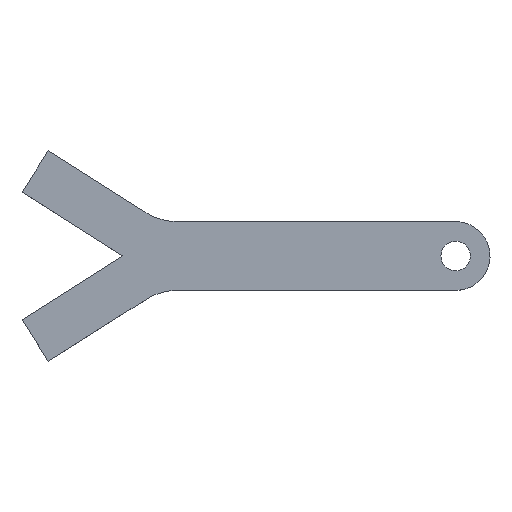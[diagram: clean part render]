
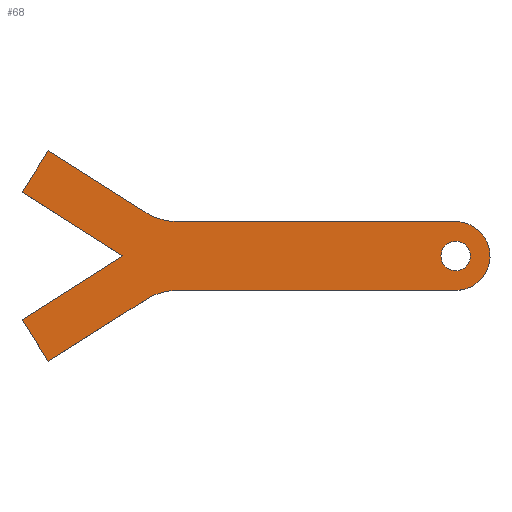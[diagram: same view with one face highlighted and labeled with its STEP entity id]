
A CAD part, top view. The second image highlights one B-rep face of the part: STEP entity #68.
In plain terms, the highlighted planar face has unit normal (0, 0, 1).
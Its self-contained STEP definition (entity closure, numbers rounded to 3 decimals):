
#68=ADVANCED_FACE('',(#106,#107),#108,.F.);
#106=FACE_BOUND('',#145,.T.);
#107=FACE_OUTER_BOUND('',#146,.T.);
#108=PLANE('',#147);
#145=EDGE_LOOP('',(#280,#281));
#146=EDGE_LOOP('',(#282,#283,#284,#285,#286,#287,#288,#289,#290,#291,#292,#293,#294,#295));
#147=AXIS2_PLACEMENT_3D('',#296,#297,#298);
#280=ORIENTED_EDGE('',*,*,#313,.T.);
#281=ORIENTED_EDGE('',*,*,#317,.T.);
#282=ORIENTED_EDGE('',*,*,#311,.F.);
#283=ORIENTED_EDGE('',*,*,#333,.F.);
#284=ORIENTED_EDGE('',*,*,#326,.F.);
#285=ORIENTED_EDGE('',*,*,#303,.F.);
#286=ORIENTED_EDGE('',*,*,#331,.F.);
#287=ORIENTED_EDGE('',*,*,#346,.F.);
#288=ORIENTED_EDGE('',*,*,#343,.F.);
#289=ORIENTED_EDGE('',*,*,#340,.F.);
#290=ORIENTED_EDGE('',*,*,#337,.F.);
#291=ORIENTED_EDGE('',*,*,#334,.F.);
#292=ORIENTED_EDGE('',*,*,#321,.F.);
#293=ORIENTED_EDGE('',*,*,#307,.F.);
#294=ORIENTED_EDGE('',*,*,#324,.F.);
#295=ORIENTED_EDGE('',*,*,#318,.F.);
#296=CARTESIAN_POINT('',(-33.54,0.041,-5.));
#297=DIRECTION('',(0.0,0.,-1.0));
#298=DIRECTION('',(1.0,0.0,0.0));
#303=EDGE_CURVE('',#353,#349,#355,.T.);
#307=EDGE_CURVE('',#361,#357,#363,.T.);
#311=EDGE_CURVE('',#369,#365,#371,.T.);
#313=EDGE_CURVE('',#375,#372,#376,.T.);
#317=EDGE_CURVE('',#372,#375,#381,.T.);
#318=EDGE_CURVE('',#365,#382,#383,.T.);
#321=EDGE_CURVE('',#357,#387,#388,.T.);
#324=EDGE_CURVE('',#382,#361,#392,.T.);
#326=EDGE_CURVE('',#349,#394,#395,.T.);
#331=EDGE_CURVE('',#401,#353,#403,.T.);
#333=EDGE_CURVE('',#394,#369,#405,.T.);
#334=EDGE_CURVE('',#387,#406,#407,.T.);
#337=EDGE_CURVE('',#406,#411,#412,.T.);
#340=EDGE_CURVE('',#411,#416,#417,.T.);
#343=EDGE_CURVE('',#416,#421,#422,.T.);
#346=EDGE_CURVE('',#421,#401,#426,.T.);
#349=VERTEX_POINT('',#429);
#353=VERTEX_POINT('',#434);
#355=CIRCLE('',#437,6.0);
#357=VERTEX_POINT('',#439);
#361=VERTEX_POINT('',#444);
#363=CIRCLE('',#447,6.0);
#365=VERTEX_POINT('',#449);
#369=VERTEX_POINT('',#454);
#371=CIRCLE('',#457,3.5);
#372=VERTEX_POINT('',#458);
#375=VERTEX_POINT('',#462);
#376=CIRCLE('',#463,1.5);
#381=CIRCLE('',#469,1.5);
#382=VERTEX_POINT('',#470);
#383=CIRCLE('',#471,3.5);
#387=VERTEX_POINT('',#476);
#388=CIRCLE('',#477,6.0);
#392=LINE('',#482,#483);
#394=VERTEX_POINT('',#486);
#395=CIRCLE('',#487,6.0);
#401=VERTEX_POINT('',#495);
#403=LINE('',#498,#499);
#405=LINE('',#502,#503);
#406=VERTEX_POINT('',#504);
#407=LINE('',#505,#506);
#411=VERTEX_POINT('',#512);
#412=LINE('',#513,#514);
#416=VERTEX_POINT('',#520);
#417=LINE('',#521,#522);
#421=VERTEX_POINT('',#528);
#422=LINE('',#529,#530);
#426=LINE('',#536,#537);
#429=CARTESIAN_POINT('',(-33.494,3.737,-5.));
#434=CARTESIAN_POINT('',(-35.031,4.427,-5.));
#437=AXIS2_PLACEMENT_3D('',#545,#546,#547);
#439=CARTESIAN_POINT('',(-33.472,-3.736,-5.));
#444=CARTESIAN_POINT('',(-31.807,-3.5,-5.));
#447=AXIS2_PLACEMENT_3D('',#553,#554,#555);
#449=CARTESIAN_POINT('',(-1.023,2.475,-5.));
#454=CARTESIAN_POINT('',(-3.498,3.5,-5.));
#457=AXIS2_PLACEMENT_3D('',#561,#562,#563);
#458=CARTESIAN_POINT('',(-1.998,0.,-5.));
#462=CARTESIAN_POINT('',(-4.998,0.,-5.));
#463=AXIS2_PLACEMENT_3D('',#565,#566,#567);
#469=AXIS2_PLACEMENT_3D('',#575,#576,#577);
#470=CARTESIAN_POINT('',(-3.498,-3.5,-5.));
#471=AXIS2_PLACEMENT_3D('',#578,#579,#580);
#476=CARTESIAN_POINT('',(-35.007,-4.425,-5.));
#477=AXIS2_PLACEMENT_3D('',#585,#586,#587);
#482=CARTESIAN_POINT('',(0.002,-3.5,-5.));
#483=VECTOR('',#592,1.0);
#486=CARTESIAN_POINT('',(-31.826,3.5,-5.));
#487=AXIS2_PLACEMENT_3D('',#594,#595,#596);
#495=CARTESIAN_POINT('',(-44.967,10.705,-5.));
#498=CARTESIAN_POINT('',(-44.967,10.705,-5.));
#499=VECTOR('',#603,1.0);
#502=CARTESIAN_POINT('',(-33.563,3.5,-5.));
#503=VECTOR('',#605,1.0);
#504=CARTESIAN_POINT('',(-44.967,-10.705,-5.));
#505=CARTESIAN_POINT('',(-33.54,-3.5,-5.));
#506=VECTOR('',#606,1.0);
#512=CARTESIAN_POINT('',(-47.642,-6.489,-5.));
#513=CARTESIAN_POINT('',(-44.967,-10.705,-5.));
#514=VECTOR('',#609,1.0);
#520=CARTESIAN_POINT('',(-37.415,0.,-5.));
#521=CARTESIAN_POINT('',(-47.642,-6.489,-5.));
#522=VECTOR('',#612,1.0);
#528=CARTESIAN_POINT('',(-47.642,6.489,-5.));
#529=CARTESIAN_POINT('',(-37.415,0.,-5.));
#530=VECTOR('',#615,1.0);
#536=CARTESIAN_POINT('',(-47.642,6.489,-5.));
#537=VECTOR('',#618,1.0);
#545=CARTESIAN_POINT('',(-31.826,9.5,-5.));
#546=DIRECTION('',(0.,0.,1.0));
#547=DIRECTION('',(-0.278,-0.961,0.));
#553=CARTESIAN_POINT('',(-31.807,-9.5,-5.));
#554=DIRECTION('',(0.,0.,1.0));
#555=DIRECTION('',(-0.278,0.961,0.));
#561=CARTESIAN_POINT('',(-3.498,0.,-5.));
#562=DIRECTION('',(0.0,0.,-1.0));
#563=DIRECTION('',(0.707,-0.707,0.));
#565=CARTESIAN_POINT('',(-3.498,0.,-5.));
#566=DIRECTION('',(0.0,0.,-1.0));
#567=DIRECTION('',(1.0,0.0,0.0));
#575=CARTESIAN_POINT('',(-3.498,0.,-5.));
#576=DIRECTION('',(0.0,0.,-1.0));
#577=DIRECTION('',(1.0,0.0,0.0));
#578=CARTESIAN_POINT('',(-3.498,0.,-5.));
#579=DIRECTION('',(0.0,0.,-1.0));
#580=DIRECTION('',(0.707,-0.707,0.));
#585=CARTESIAN_POINT('',(-31.807,-9.5,-5.));
#586=DIRECTION('',(0.,0.,1.0));
#587=DIRECTION('',(-0.278,0.961,0.));
#592=DIRECTION('',(-1.0,0.,0.));
#594=CARTESIAN_POINT('',(-31.826,9.5,-5.));
#595=DIRECTION('',(0.,0.,1.0));
#596=DIRECTION('',(-0.278,-0.961,0.));
#603=DIRECTION('',(0.845,-0.534,0.));
#605=DIRECTION('',(1.0,0.,0.));
#606=DIRECTION('',(-0.846,-0.533,0.));
#609=DIRECTION('',(-0.536,0.844,0.));
#612=DIRECTION('',(0.844,0.536,0.));
#615=DIRECTION('',(-0.844,0.536,0.));
#618=DIRECTION('',(0.536,0.844,0.));
